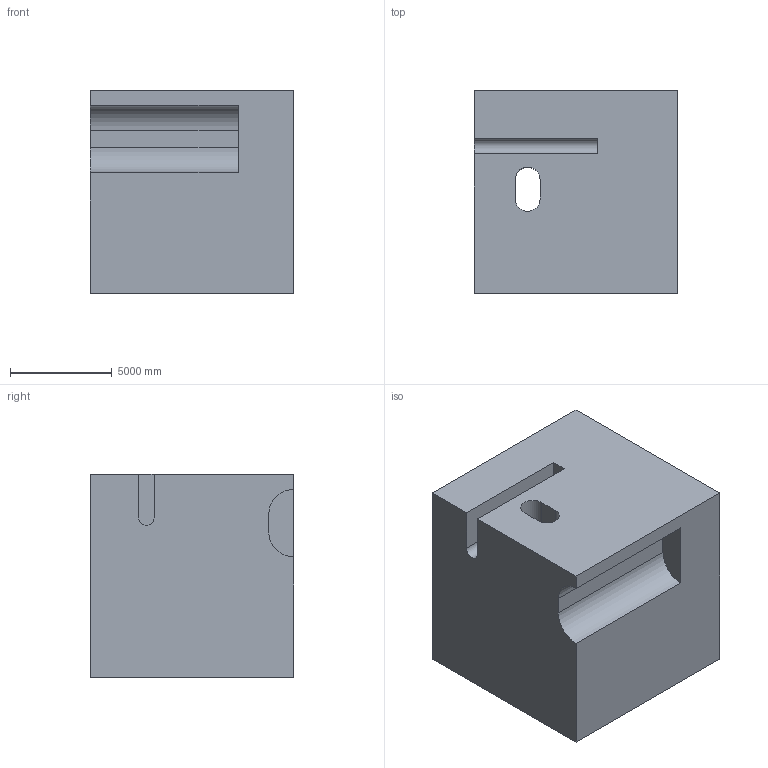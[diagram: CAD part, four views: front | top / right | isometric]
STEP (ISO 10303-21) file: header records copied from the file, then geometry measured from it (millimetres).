
FILE_DESCRIPTION (( 'STEP AP203' ), '1' );
FILE_NAME ('130.STEP', '2022-09-06T15:09:40', ( 'user' ), ( '' ), 'SwSTEP 2.0', 'SolidWorks 2021', '' );
FILE_SCHEMA (( 'CONFIG_CONTROL_DESIGN' ));
Length unit declared in the file: centimetre
Products named in the file (1): 130
Bounding box: 10000 x 10000 x 10000 mm (x, y, z)
Volume: 901443330324.7 mm3; surface area: 686130056.7 mm2
Topology: 1 solids, 1 shells, 20 faces, 54 edges, 36 vertices
Faces by surface type: plane 14, cylinder 6
Entity records: 711 total; most frequent: CARTESIAN_POINT 111, DIRECTION 108, ORIENTED_EDGE 108, EDGE_CURVE 54, LINE 42, VECTOR 42, VERTEX_POINT 36, AXIS2_PLACEMENT_3D 33
